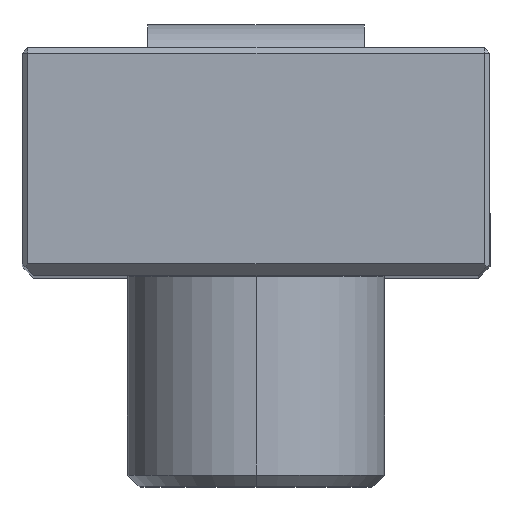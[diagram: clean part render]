
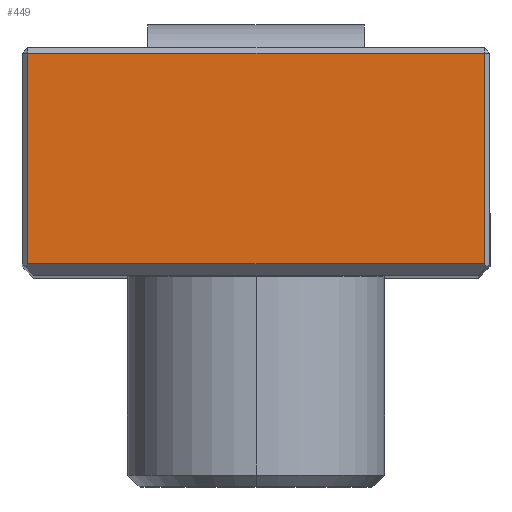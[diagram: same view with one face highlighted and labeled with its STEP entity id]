
A CAD part, top view. The second image highlights one B-rep face of the part: STEP entity #449.
In plain terms, the highlighted planar face has unit normal (0, 0, 1).
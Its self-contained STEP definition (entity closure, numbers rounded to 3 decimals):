
#3 = AXIS2_PLACEMENT_3D ( 'NONE', #5, #22, #21 ) ;
#4 = PLANE ( 'NONE',  #3 ) ;
#5 = CARTESIAN_POINT ( 'NONE',  ( 20., 19.5, 70. ) ) ;
#7 = DIRECTION ( 'NONE',  ( -1., 0., 0. ) ) ;
#21 = DIRECTION ( 'NONE',  ( -1., 0., 0. ) ) ;
#22 = DIRECTION ( 'NONE',  ( 0., 0., -1. ) ) ;
#33 = FACE_OUTER_BOUND ( 'NONE', #528, .T. ) ;
#36 = CARTESIAN_POINT ( 'NONE',  ( -19.5, 19., 70. ) ) ;
#37 = CARTESIAN_POINT ( 'NONE',  ( 19.5, 19., 70. ) ) ;
#38 = CARTESIAN_POINT ( 'NONE',  ( -19.5, 1., 70. ) ) ;
#39 = VECTOR ( 'NONE', #7, 1000. ) ;
#40 = CARTESIAN_POINT ( 'NONE',  ( -20., 19., 70. ) ) ;
#46 = LINE ( 'NONE', #40, #39 ) ;
#47 = DIRECTION ( 'NONE',  ( 0., -1., 0. ) ) ;
#48 = VECTOR ( 'NONE', #47, 1000. ) ;
#49 = CARTESIAN_POINT ( 'NONE',  ( -19.5, 0., 70. ) ) ;
#50 = LINE ( 'NONE', #49, #48 ) ;
#142 = CARTESIAN_POINT ( 'NONE',  ( 19.5, 19.5, 70. ) ) ;
#143 = LINE ( 'NONE', #142, #160 ) ;
#148 = CARTESIAN_POINT ( 'NONE',  ( 19.5, 1., 70. ) ) ;
#159 = DIRECTION ( 'NONE',  ( 0., 1., 0. ) ) ;
#160 = VECTOR ( 'NONE', #159, 1000. ) ;
#449 = ADVANCED_FACE ( 'NONE', ( #33 ), #4, .F. ) ;
#461 = ORIENTED_EDGE ( 'NONE', *, *, #616, .T. ) ;
#462 = VERTEX_POINT ( 'NONE', #36 ) ;
#463 = VERTEX_POINT ( 'NONE', #38 ) ;
#464 = VERTEX_POINT ( 'NONE', #37 ) ;
#465 = ORIENTED_EDGE ( 'NONE', *, *, #466, .T. ) ;
#466 = EDGE_CURVE ( 'NONE', #462, #463, #50, .T. ) ;
#470 = ORIENTED_EDGE ( 'NONE', *, *, #471, .T. ) ;
#471 = EDGE_CURVE ( 'NONE', #464, #462, #46, .T. ) ;
#523 = ORIENTED_EDGE ( 'NONE', *, *, #524, .T. ) ;
#524 = EDGE_CURVE ( 'NONE', #533, #464, #143, .T. ) ;
#528 = EDGE_LOOP ( 'NONE', ( #465, #461, #523, #470 ) ) ;
#533 = VERTEX_POINT ( 'NONE', #148 ) ;
#616 = EDGE_CURVE ( 'NONE', #463, #533, #996, .T. ) ;
#993 = DIRECTION ( 'NONE',  ( 1., 0., 0. ) ) ;
#994 = VECTOR ( 'NONE', #993, 1000. ) ;
#995 = CARTESIAN_POINT ( 'NONE',  ( 19.5, 1., 70. ) ) ;
#996 = LINE ( 'NONE', #995, #994 ) ;
